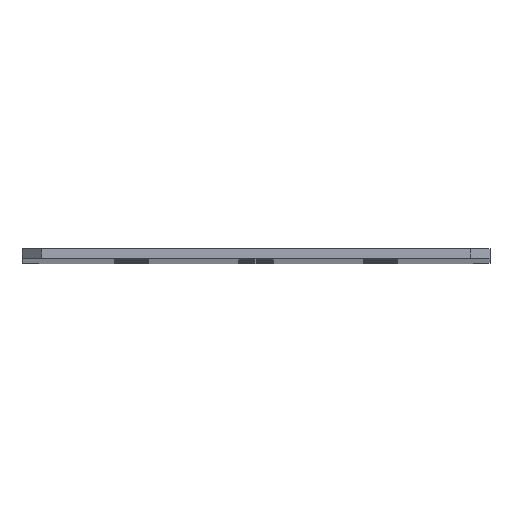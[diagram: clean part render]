
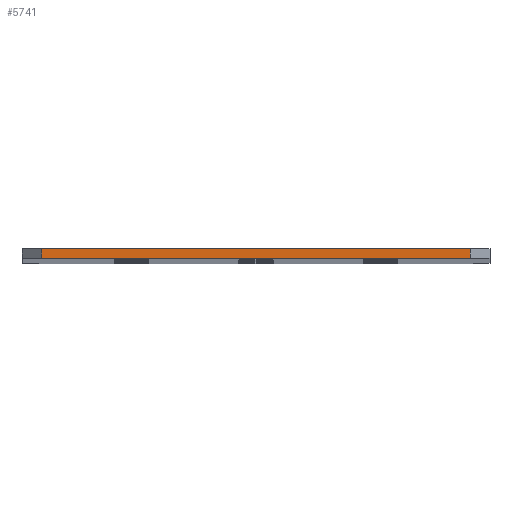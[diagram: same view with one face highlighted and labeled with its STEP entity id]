
A CAD part, top view. The second image highlights one B-rep face of the part: STEP entity #5741.
In plain terms, the highlighted planar face has unit normal (0, 0, 1).
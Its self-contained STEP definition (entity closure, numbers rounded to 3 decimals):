
#421=CARTESIAN_POINT(' ',(-21.5,1.,146.5));
#426=DIRECTION(' ',(1.,0.,0.));
#431=VECTOR(' ',#426,1.);
#436=LINE('',#421,#431);
#441=CARTESIAN_POINT(' ',(-21.5,1.,146.5));
#442=VERTEX_POINT(' ',#441);
#446=CARTESIAN_POINT(' ',(21.5,1.,146.5));
#447=VERTEX_POINT(' ',#446);
#451=EDGE_CURVE(' ',#442,#447,#436,.T.);
#3131=CARTESIAN_POINT(' ',(21.5,0.,146.5));
#3132=VERTEX_POINT(' ',#3131);
#3146=CARTESIAN_POINT(' ',(-21.5,0.,146.5));
#3151=DIRECTION(' ',(1.,0.,0.));
#3156=VECTOR(' ',#3151,1.);
#3161=LINE('',#3146,#3156);
#3166=CARTESIAN_POINT(' ',(-21.5,0.,146.5));
#3167=VERTEX_POINT(' ',#3166);
#3171=EDGE_CURVE(' ',#3167,#3132,#3161,.T.);
#5636=DIRECTION(' ',(-0.,-0.,1.));
#5641=CARTESIAN_POINT(' ',(21.5,0.,146.5));
#5646=DIRECTION(' ',(0.,1.,0.));
#5651=AXIS2_PLACEMENT_3D(' ',#5641,#5636,#5646);
#5656=PLANE('NONE',#5651);
#5661=ORIENTED_EDGE(' ',*,*,#3171,.T.);
#5666=CARTESIAN_POINT(' ',(21.5,0.,146.5));
#5671=DIRECTION(' ',(0.,1.,0.));
#5676=VECTOR(' ',#5671,1.);
#5681=LINE('',#5666,#5676);
#5686=EDGE_CURVE(' ',#3132,#447,#5681,.T.);
#5691=ORIENTED_EDGE(' ',*,*,#5686,.T.);
#5696=ORIENTED_EDGE(' ',*,*,#451,.F.);
#5701=CARTESIAN_POINT(' ',(-21.5,1.,146.5));
#5706=DIRECTION(' ',(0.,-1.,0.));
#5711=VECTOR(' ',#5706,1.);
#5716=LINE('',#5701,#5711);
#5721=EDGE_CURVE(' ',#442,#3167,#5716,.T.);
#5726=ORIENTED_EDGE(' ',*,*,#5721,.T.);
#5731=EDGE_LOOP(' ',(#5661,#5691,#5696,#5726));
#5736=FACE_OUTER_BOUND(' ',#5731,.T.);
#5741=ADVANCED_FACE('NONE',(#5736),#5656,.T.);
